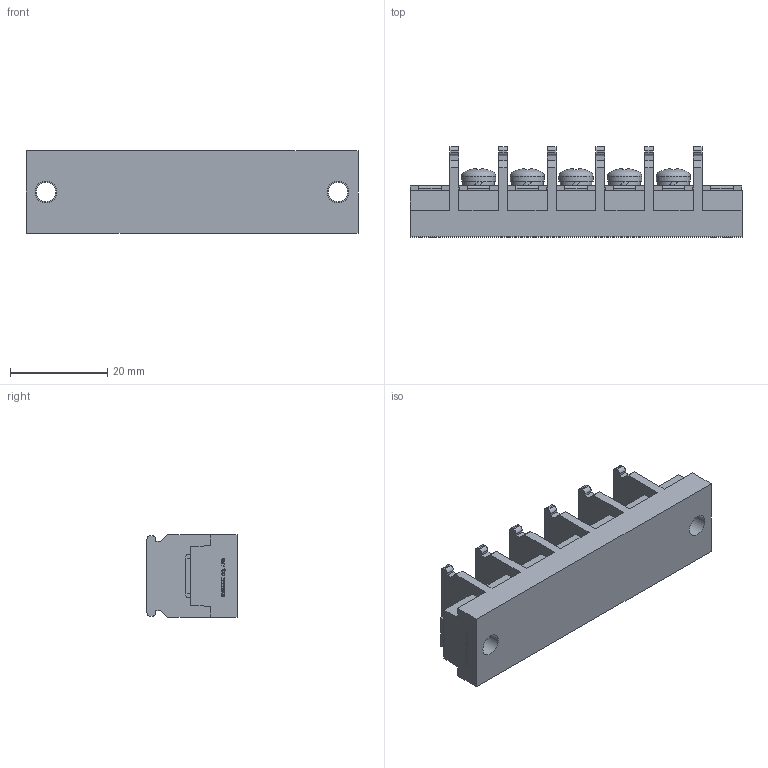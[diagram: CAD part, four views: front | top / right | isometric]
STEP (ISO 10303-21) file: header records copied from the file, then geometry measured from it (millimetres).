
FILE_DESCRIPTION(/* description */ ('Alibre Inc.'),/* implementation_level */ '2;1');
FILE_NAME(/* name */ 'export0',/* time_stamp */ '2015-10-14T19:48:29+09:00',/* author */ (''),/* organization */ (''),/* preprocessor_version */ 'ST-DEVELOPER v14',/* originating_system */ 'Alibre',/* authorisation */ '');
FILE_SCHEMA (('CONFIG_CONTROL_DESIGN'));
Length unit declared in the file: centimetre
Products named in the file (1): ID_1
Bounding box: 68.2 x 18.5 x 17 mm (x, y, z)
Volume: 12131.4 mm3; surface area: 7145.6 mm2
Topology: 1 solids, 17 shells, 754 faces, 2043 edges, 1357 vertices
Faces by surface type: plane 558, bspline 104, cylinder 57, cone 20, torus 10, sphere 5
Full cylindrical faces by diameter (mm): 4 x7, 4.5 x2, 6.5 x5, 7 x5
Entity records: 22970 total; most frequent: CARTESIAN_POINT 5188, ORIENTED_EDGE 4008, DIRECTION 2754, EDGE_CURVE 2004, VECTOR 1494, LINE 1494, VERTEX_POINT 1342, AXIS2_PLACEMENT_3D 904
